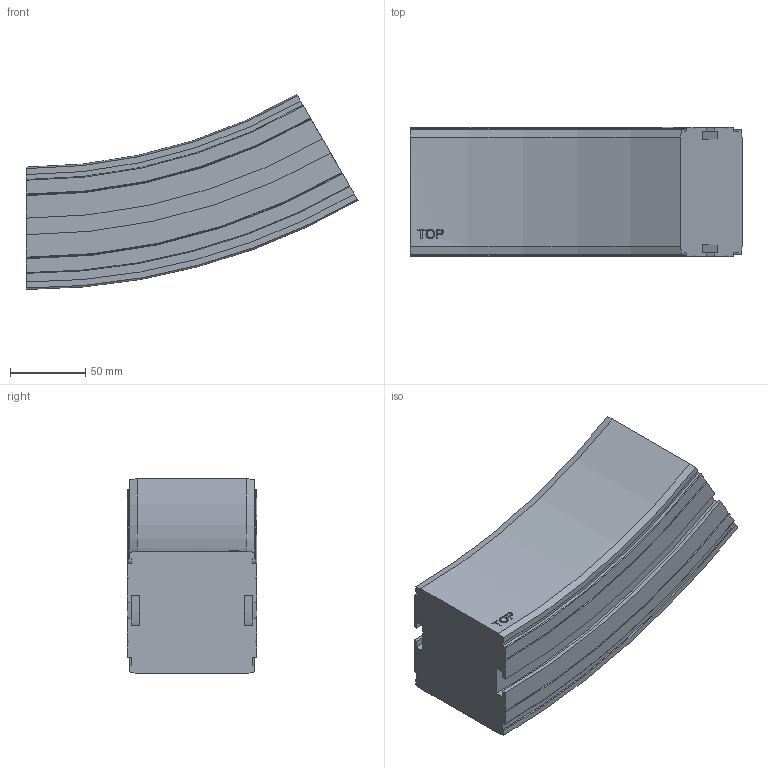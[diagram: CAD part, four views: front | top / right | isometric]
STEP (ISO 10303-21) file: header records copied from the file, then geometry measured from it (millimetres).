
FILE_DESCRIPTION((''),'2;1');
FILE_NAME('C:\Vault Klient\Projekt\Koncept konstruktion\Serie 830 Balk\830-5610_UP.stp','2009-11-27T10:32:12',('Mathias'),(''),'Autodesk Inventor 2010','Autodesk Inventor 2010','');
FILE_SCHEMA(('AUTOMOTIVE_DESIGN { 1 0 10303 214 1 1 1 1 }'));
Length unit declared in the file: millimetre
Products named in the file (1): 830-5610_UP
Bounding box: 221 x 86 x 129.8 mm (x, y, z)
Volume: 1396439.8 mm3; surface area: 99093.9 mm2
Topology: 1 solids, 1 shells, 93 faces, 258 edges, 172 vertices
Faces by surface type: plane 40, cylinder 23, bspline 14, cone 12, torus 4
Entity records: 3377 total; most frequent: CARTESIAN_POINT 942, ORIENTED_EDGE 516, DIRECTION 472, EDGE_CURVE 258, VERTEX_POINT 172, AXIS2_PLACEMENT_3D 162, VECTOR 148, LINE 148
